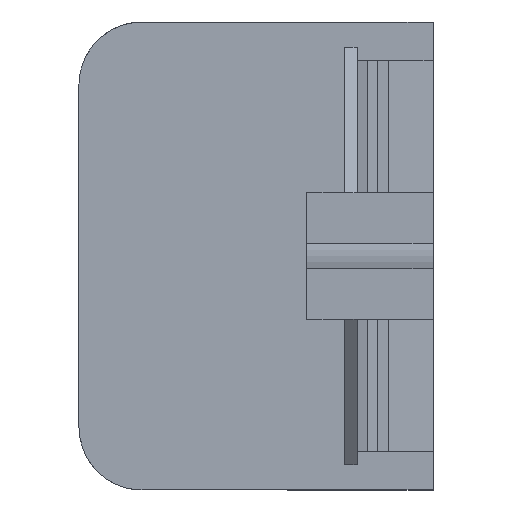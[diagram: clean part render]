
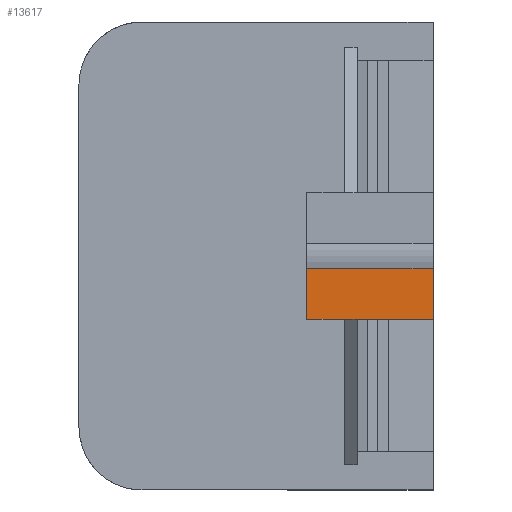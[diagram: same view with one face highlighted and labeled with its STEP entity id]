
A CAD part, left-side view. The second image highlights one B-rep face of the part: STEP entity #13617.
In plain terms, the highlighted planar face has unit normal (-1, 0, 0).
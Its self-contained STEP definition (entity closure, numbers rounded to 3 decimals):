
#1269 = DIRECTION ( 'NONE',  ( 0., -1., 0. ) ) ;
#2336 = VERTEX_POINT ( 'NONE', #3568 ) ;
#3568 = CARTESIAN_POINT ( 'NONE',  ( -70., -10., -1. ) ) ;
#4123 = EDGE_CURVE ( 'NONE', #27094, #12176, #24566, .T. ) ;
#5693 = VECTOR ( 'NONE', #34814, 1000. ) ;
#6410 = ORIENTED_EDGE ( 'NONE', *, *, #31444, .T. ) ;
#6547 = DIRECTION ( 'NONE',  ( 0., 0., -1. ) ) ;
#8520 = DIRECTION ( 'NONE',  ( 0., -1., 0. ) ) ;
#10386 = LINE ( 'NONE', #27430, #14251 ) ;
#11795 = AXIS2_PLACEMENT_3D ( 'NONE', #21456, #50162, #1269 ) ;
#11807 = CARTESIAN_POINT ( 'NONE',  ( -70., 0., -5. ) ) ;
#12176 = VERTEX_POINT ( 'NONE', #29874 ) ;
#13617 = ADVANCED_FACE ( 'NONE', ( #22297 ), #46019, .T. ) ;
#14251 = VECTOR ( 'NONE', #6547, 1000. ) ;
#14644 = LINE ( 'NONE', #48084, #47407 ) ;
#15549 = VECTOR ( 'NONE', #8520, 1000. ) ;
#20497 = EDGE_CURVE ( 'NONE', #2336, #32956, #10386, .T. ) ;
#21456 = CARTESIAN_POINT ( 'NONE',  ( -70., 0., 0. ) ) ;
#22297 = FACE_OUTER_BOUND ( 'NONE', #25551, .T. ) ;
#23146 = DIRECTION ( 'NONE',  ( 0., 1., 0. ) ) ;
#24149 = ORIENTED_EDGE ( 'NONE', *, *, #4123, .T. ) ;
#24387 = LINE ( 'NONE', #51031, #41010 ) ;
#24566 = LINE ( 'NONE', #11807, #15549 ) ;
#25551 = EDGE_LOOP ( 'NONE', ( #48692, #26873, #33695, #6410, #24149, #41207 ) ) ;
#26337 = VERTEX_POINT ( 'NONE', #35743 ) ;
#26873 = ORIENTED_EDGE ( 'NONE', *, *, #20497, .F. ) ;
#27094 = VERTEX_POINT ( 'NONE', #53053 ) ;
#27430 = CARTESIAN_POINT ( 'NONE',  ( -70., -10., 0. ) ) ;
#29874 = CARTESIAN_POINT ( 'NONE',  ( -70., -3., -5. ) ) ;
#31098 = CARTESIAN_POINT ( 'NONE',  ( -70., -10., -5. ) ) ;
#31444 = EDGE_CURVE ( 'NONE', #26337, #27094, #24387, .T. ) ;
#32956 = VERTEX_POINT ( 'NONE', #31098 ) ;
#33037 = LINE ( 'NONE', #43412, #38782 ) ;
#33695 = ORIENTED_EDGE ( 'NONE', *, *, #39739, .T. ) ;
#34814 = DIRECTION ( 'NONE',  ( 0., 1., 0. ) ) ;
#35669 = EDGE_CURVE ( 'NONE', #32956, #42545, #14644, .T. ) ;
#35743 = CARTESIAN_POINT ( 'NONE',  ( -70., 0., -1. ) ) ;
#38782 = VECTOR ( 'NONE', #52052, 1000. ) ;
#39739 = EDGE_CURVE ( 'NONE', #2336, #26337, #33037, .T. ) ;
#41010 = VECTOR ( 'NONE', #46752, 1000. ) ;
#41207 = ORIENTED_EDGE ( 'NONE', *, *, #49821, .F. ) ;
#41486 = CARTESIAN_POINT ( 'NONE',  ( -70., -4., -5. ) ) ;
#42545 = VERTEX_POINT ( 'NONE', #41486 ) ;
#43412 = CARTESIAN_POINT ( 'NONE',  ( -70., 0., -1. ) ) ;
#43618 = LINE ( 'NONE', #43769, #5693 ) ;
#43769 = CARTESIAN_POINT ( 'NONE',  ( -70., 0., -5. ) ) ;
#46019 = PLANE ( 'NONE',  #11795 ) ;
#46752 = DIRECTION ( 'NONE',  ( 0., 0., -1. ) ) ;
#47407 = VECTOR ( 'NONE', #23146, 1000. ) ;
#48084 = CARTESIAN_POINT ( 'NONE',  ( -70., -10., -5. ) ) ;
#48692 = ORIENTED_EDGE ( 'NONE', *, *, #35669, .F. ) ;
#49821 = EDGE_CURVE ( 'NONE', #42545, #12176, #43618, .T. ) ;
#50162 = DIRECTION ( 'NONE',  ( -1., 0., 0. ) ) ;
#51031 = CARTESIAN_POINT ( 'NONE',  ( -70., 0., 0. ) ) ;
#52052 = DIRECTION ( 'NONE',  ( 0., 1., 0. ) ) ;
#53053 = CARTESIAN_POINT ( 'NONE',  ( -70., 0., -5. ) ) ;
